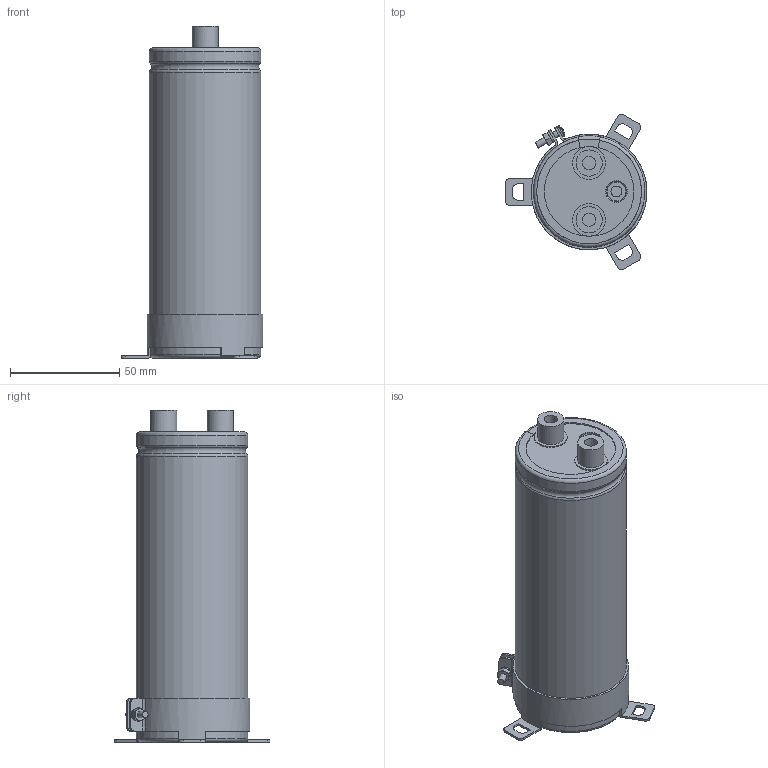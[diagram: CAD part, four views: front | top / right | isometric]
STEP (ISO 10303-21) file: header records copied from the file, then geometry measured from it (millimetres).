
FILE_DESCRIPTION(/* description */ (''),/* implementation_level */ '2;1');
FILE_NAME(/* name */ '51x142_EDLC_Screw.stp',/* time_stamp */ '2017-09-27T14:57:30+09:00',/* author */ (''),/* organization */ (''),/* preprocessor_version */ 'ST-DEVELOPER v16',/* originating_system */ 'SIEMENS PLM Software NX 11.0',/* authorisation */ '');
FILE_SCHEMA (('AUTOMOTIVE_DESIGN { 1 0 10303 214 3 1 1 1 }'));
Length unit declared in the file: millimetre
Products named in the file (1): 51x142_EDLC_Screw_1
Bounding box: 65 x 71.22 x 152 mm (x, y, z)
Volume: 292815.3 mm3; surface area: 82603.3 mm2
Topology: 9 solids, 9 shells, 257 faces, 639 edges, 411 vertices
Faces by surface type: plane 111, cylinder 65, torus 49, cone 31, sphere 1
Full cylindrical faces by diameter (mm): 3 x5, 5 x4, 5.5 x2, 6 x2, 10 x2, 12 x2, 15 x2, 49.8 x2
Entity records: 8377 total; most frequent: CARTESIAN_POINT 2059, DIRECTION 1288, ORIENTED_EDGE 1210, EDGE_CURVE 605, AXIS2_PLACEMENT_3D 537, VERTEX_POINT 406, EDGE_LOOP 313, CIRCLE 279
